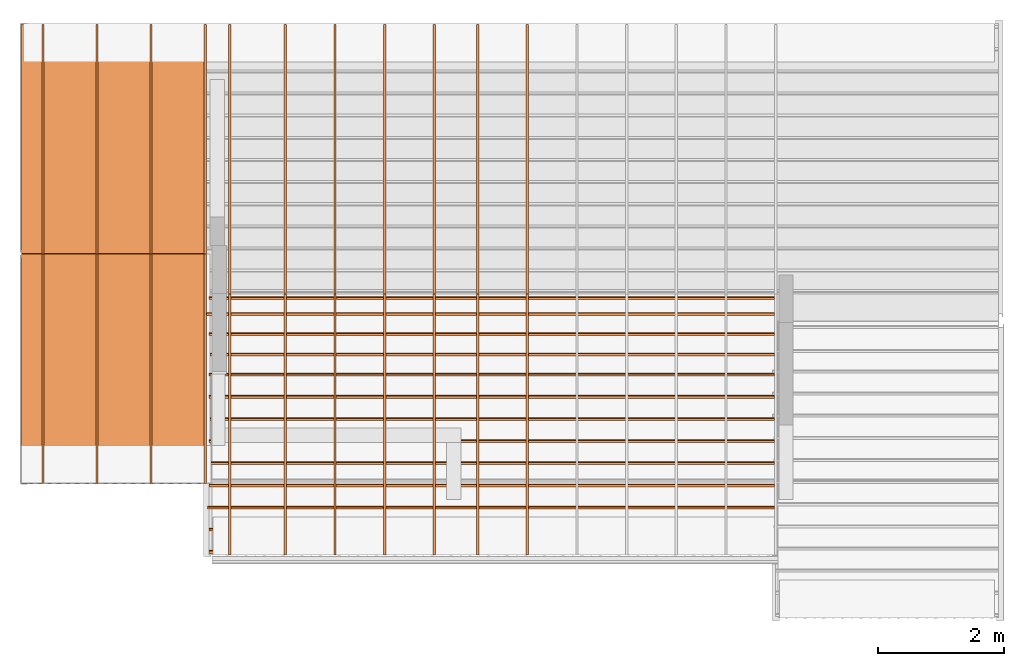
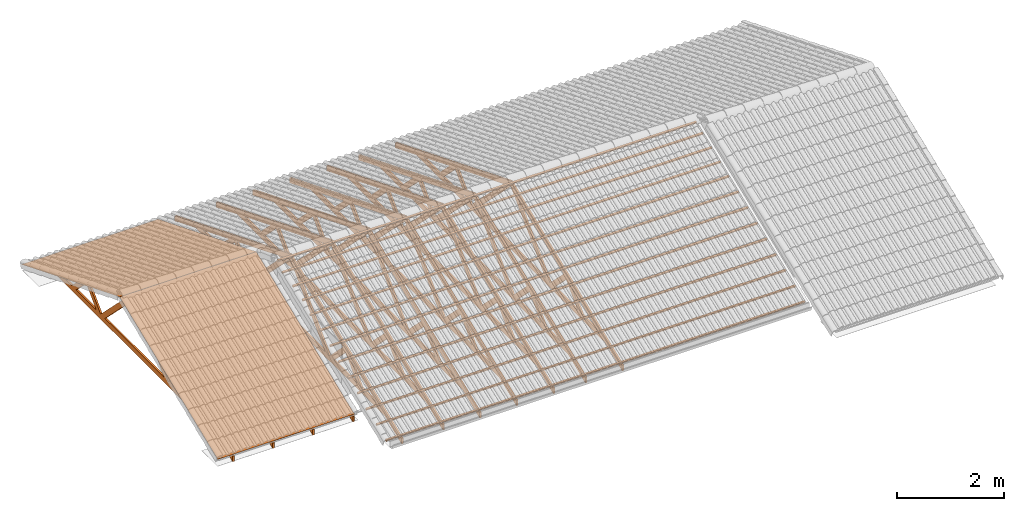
# One storey, part 4 of 5: 14 proxies.
"""IFC2X3 building model written with IfcOpenShell, lengths in millimetres."""

from ifc_helpers import new_model, entity, si_unit, converted_unit, derived_unit, direction, frame, frame_2d, origin, place, context, subcontext, project, spatial, polyline, rectangle, outline, extrude, source, transform, mapped, material, type_object, type_shapes, element, save


model = new_model("IFC2X3")

# Units and contexts
model_context = context("Model", 3, precision=0.01, world=origin(), true_north=direction((6.12303176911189e-17, 1.0)))
body_context = subcontext(model_context, "Body", "Model", "MODEL_VIEW")
ifc_project = project(units=[si_unit("LENGTHUNIT", "METRE", prefix="MILLI"), si_unit("AREAUNIT", "SQUARE_METRE"), si_unit("VOLUMEUNIT", "CUBIC_METRE"), converted_unit("PLANEANGLEUNIT", "DEGREE", entity("IfcRatioMeasure", 0.0174532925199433), si_unit("PLANEANGLEUNIT", "RADIAN"), dimensions=[0, 0, 0, 0, 0, 0, 0]), si_unit("MASSUNIT", "GRAM", prefix="KILO"), derived_unit("MASSDENSITYUNIT", [(si_unit("MASSUNIT", "GRAM", prefix="KILO"), 1), (si_unit("LENGTHUNIT", "METRE"), -3)]), si_unit("TIMEUNIT", "SECOND"), si_unit("FREQUENCYUNIT", "HERTZ"), si_unit("THERMODYNAMICTEMPERATUREUNIT", "DEGREE_CELSIUS"), derived_unit("THERMALTRANSMITTANCEUNIT", [(si_unit("MASSUNIT", "GRAM", prefix="KILO"), 1), (si_unit("THERMODYNAMICTEMPERATUREUNIT", "KELVIN"), -1), (si_unit("TIMEUNIT", "SECOND"), -3)]), derived_unit("VOLUMETRICFLOWRATEUNIT", [(si_unit("LENGTHUNIT", "METRE"), 3), (si_unit("TIMEUNIT", "SECOND"), -1)]), si_unit("ELECTRICCURRENTUNIT", "AMPERE"), si_unit("ELECTRICVOLTAGEUNIT", "VOLT"), si_unit("POWERUNIT", "WATT"), si_unit("FORCEUNIT", "NEWTON", prefix="KILO"), si_unit("ILLUMINANCEUNIT", "LUX"), si_unit("LUMINOUSFLUXUNIT", "LUMEN"), si_unit("LUMINOUSINTENSITYUNIT", "CANDELA"), derived_unit("USERDEFINED", [(si_unit("MASSUNIT", "GRAM", prefix="KILO"), -1), (si_unit("LENGTHUNIT", "METRE"), -2), (si_unit("TIMEUNIT", "SECOND"), 3), (si_unit("LUMINOUSFLUXUNIT", "LUMEN"), 1)]), derived_unit("LINEARVELOCITYUNIT", [(si_unit("LENGTHUNIT", "METRE"), 1), (si_unit("TIMEUNIT", "SECOND"), -1)]), si_unit("PRESSUREUNIT", "PASCAL"), derived_unit("USERDEFINED", [(si_unit("LENGTHUNIT", "METRE"), -2), (si_unit("MASSUNIT", "GRAM", prefix="KILO"), 1), (si_unit("TIMEUNIT", "SECOND"), -2)])], contexts=[model_context])

# Site, building, storey
site_placement = place(None, origin())
site = spatial("IfcSite", under=ifc_project, at=site_placement, Name="Surface", CompositionType="ELEMENT")
building_placement = place(site_placement, origin())
building = spatial("IfcBuilding", under=site, at=building_placement, CompositionType="ELEMENT")
storey_placement = place(building_placement, frame((0.0, 0.0, 2765.0)))
storey = spatial("IfcBuildingStorey", under=building, at=storey_placement, Name="U.S.W.P", CompositionType="ELEMENT", Elevation=2765.0)

# Proxies
ifc_material_1 = material(Name="TIMBER 2")
building_element_proxy_type_1 = type_object("IfcBuildingElementProxyType", Name="STRUCTURE 2", PredefinedType="NOTDEFINED", material=ifc_material_1)
shared_shape_1 = source(origin(), body_context, "Body", "SweptSolid", [
    extrude(outline(polyline([(-485.844140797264, -1202.50750355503), (3453.50400683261, -1202.50750355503), (3499.55744034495, -1088.50750355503), (2806.06515703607, -1088.50750355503), (1143.65269277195, -416.849269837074), (1143.48319688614, -416.449962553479), (1143.08388960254, -416.619458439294), (-1111.67319616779, 494.361537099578), (-1111.84269205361, 494.760844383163), (-1112.24199933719, 494.591348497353), (-2774.65446360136, 1166.24958221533), (-3273.51584073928, 1647.99173150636), (-3319.57405077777, 1533.9936613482), (-485.844140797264, -1202.50750355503)]), holes=[polyline([(-649.660257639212, -885.833469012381), (-1746.66032303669, 173.52718010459), (-1198.16029033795, 406.351630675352), (-649.660257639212, -885.833469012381)]), polyline([(-2555.74551036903, 954.851663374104), (-2192.41655392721, 808.05723636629), (-2045.6221269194, 462.231238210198), (-2555.74551036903, 954.851663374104)]), polyline([(-148.02441921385, -1088.50750355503), (1144.16068047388, -540.00747085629), (1376.98513104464, -1088.50750355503), (-148.02441921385, -1088.50750355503)]), polyline([(-439.785151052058, -1088.50750355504), (-1048.67938839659, 345.95742602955), (994.679778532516, -479.613266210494), (-439.785151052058, -1088.50750355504)]), polyline([(1293.64158241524, -600.401675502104), (1988.93604212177, -881.318871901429), (1500.83021406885, -1088.50750355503), (1293.64158241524, -600.401675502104)]), polyline([(1792.59094590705, -1088.50750355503), (2138.41694406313, -941.71307654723), (2501.74590050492, -1088.50750355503), (1792.59094590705, -1088.50750355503)]), polyline([(-1835.74702033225, 259.557203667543), (-2042.93565198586, 747.663031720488), (-1347.64119227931, 466.745835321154), (-1835.74702033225, 259.557203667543)])]), frame((-19.0, 0.000396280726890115, 343.054039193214), z_axis=(1.0, 0.0, 0.0), x_axis=(0.0, -0.927183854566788, -0.374606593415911)), (0.0, 0.0, 1.0), 38.0),
])
type_shapes(building_element_proxy_type_1, [shared_shape_1])
for number, where, name in (
    (1, (-11747.8751700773, 7772.59087597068, -212.364427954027), "STRUCTURE 2:STRUCTURE 2"),
    (2, (-10887.8751700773, 7772.59087597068, -212.364427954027), "STRUCTURE 2:STRUCTURE 2"),
    (3, (-10027.8751700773, 7772.59087597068, -212.364427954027), "STRUCTURE 2:STRUCTURE 2"),
    (4, (-9167.8751700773, 7772.59087597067, -212.364427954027), "STRUCTURE 2:STRUCTURE 2"),
):
    element("IfcBuildingElementProxy", number, at=place(storey_placement, frame(where)), inside=storey, type_object=building_element_proxy_type_1, material=ifc_material_1, Name=name, ObjectType="STRUCTURE 2", context=body_context, shape_type="MappedRepresentation", body=[
        mapped(shared_shape_1, transform((0.0, 0.0, 0.0), scale=1.0)),
    ])
building_element_proxy_type_2 = type_object("IfcBuildingElementProxyType", Name="STRUCTURE", PredefinedType="NOTDEFINED", material=ifc_material_1)
shared_shape_2 = source(origin(), body_context, "Body", "SweptSolid", [
    extrude(outline(polyline([(-4018.80184531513, -1245.65570033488), (-3972.74395265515, -1359.65389872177), (506.410833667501, -1359.66636899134), (3836.52762871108, 1856.17212158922), (3790.46973605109, 1970.17031997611), (3183.76594544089, 1384.28922681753), (-3325.62834590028, -1245.65570033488), (-4018.80184531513, -1245.65570033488)]), holes=[polyline([(-1998.73682413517, -1245.65939449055), (-3021.30908937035, -1245.65654758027), (-2497.4030946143, -1033.98648251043), (-1998.73682413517, -1245.65939449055)]), polyline([(-1386.99133862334, -585.354607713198), (168.591429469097, -1245.66542847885), (-1667.27665290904, -1245.66031729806), (-1386.99133862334, -585.354607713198)]), polyline([(460.352161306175, -1245.66624076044), (-1237.51026854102, -524.960819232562), (1181.05758283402, 452.196189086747), (460.352161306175, -1245.66624076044)]), polyline([(1330.53865291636, 512.589977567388), (1990.84436250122, 232.304663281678), (670.227832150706, -1042.99279052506), (1330.53865291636, 512.589977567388)]), polyline([(2964.85640366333, 1172.89191743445), (2229.2774969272, 462.555581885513), (2440.9504089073, 961.22185236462), (2964.85640366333, 1172.89191743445)]), polyline([(1480.01972299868, 572.983766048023), (2291.46933882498, 900.828063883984), (2049.66667982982, 331.181107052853), (1480.01972299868, 572.983766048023)]), polyline([(-2347.92202453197, -973.592694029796), (-1536.47240870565, -645.748396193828), (-1778.27506770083, -1215.39535302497), (-2347.92202453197, -973.592694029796)])]), frame((-19.0, 39.7999999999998, 449.634346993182), z_axis=(-1.0, 0.0, 0.0), x_axis=(0.0, 0.92718489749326, 0.374604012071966)), (0.0, 0.0, -1.0), 38.0),
])
type_shapes(building_element_proxy_type_2, [shared_shape_2])
for number, where, name in (
    (5, (-7889.42092415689, 7132.5908759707, -213.787643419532), "STRUCTURE:STRUCTURE"),
    (6, (-7099.42092415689, 7132.59087597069, -213.787643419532), "STRUCTURE:STRUCTURE"),
    (7, (-6309.42092415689, 7132.59087597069, -213.787643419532), "STRUCTURE:STRUCTURE"),
    (8, (-5519.42092415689, 7132.59087597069, -213.787643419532), "STRUCTURE:STRUCTURE"),
    (9, (-4827.87517007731, 7132.59087597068, -213.787643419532), "STRUCTURE:STRUCTURE"),
    (10, (-4037.87517007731, 7132.59087597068, -213.787643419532), "STRUCTURE:STRUCTURE"),
    (11, (-8777.87517007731, 7132.59087597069, -213.787643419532), "STRUCTURE:STRUCTURE"),
):
    element("IfcBuildingElementProxy", number, at=place(storey_placement, frame(where)), inside=storey, type_object=building_element_proxy_type_2, material=ifc_material_1, Name=name, ObjectType="STRUCTURE", context=body_context, shape_type="MappedRepresentation", body=[
        mapped(shared_shape_2, transform((0.0, 0.0, 0.0), scale=1.0)),
    ])
ifc_material_2 = material(Name="TIMBER")
building_element_proxy_type_3 = type_object("IfcBuildingElementProxyType", Name="Generic Models 1", PredefinedType="NOTDEFINED", material=ifc_material_2)
shared_shape_3 = source(origin(), body_context, "Body", "SweptSolid", [
    extrude(rectangle(XDim=37.9999999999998, YDim=38.0000000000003, at=frame_2d((-1.00364161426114e-12, 4.05009359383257e-13), x_axis=(0.0, 1.0))), frame((-6778.64843247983, 18942.0189115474, 5138.45449771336), z_axis=(1.0, 0.0, 0.0), x_axis=(0.0, 0.927183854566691, 0.374606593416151)), (0.0, 0.0, 1.0), 9000.0),
    extrude(rectangle(XDim=37.9999999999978, YDim=37.9999999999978, at=frame_2d((-1.00364161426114e-12, 4.06785716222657e-13), x_axis=(0.0, 1.0))), frame((-6820.64843247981, 18690.2977164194, 5036.75253328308), z_axis=(1.0, 0.0, 0.0), x_axis=(0.0, 0.927183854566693, 0.374606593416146)), (0.0, 0.0, 1.0), 9041.99999999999),
    extrude(rectangle(XDim=37.9999999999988, YDim=37.9999999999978, at=frame_2d((-8.01136934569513e-13, 9.07718344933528e-13), x_axis=(0.0, 1.0))), frame((-6778.64843247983, 18368.1105483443, 4906.58046775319), z_axis=(1.0, 0.0, 0.0), x_axis=(0.0, 0.927183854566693, 0.374606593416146)), (0.0, 0.0, 1.0), 9000.0),
    extrude(rectangle(XDim=37.9999999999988, YDim=37.9999999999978, at=frame_2d((1.00541797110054e-12, -4.05009359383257e-13), x_axis=(0.0, 1.0))), frame((-6758.64843247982, 18045.9233802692, 4776.4084022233), z_axis=(1.0, 0.0, 0.0), x_axis=(0.0, 0.927183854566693, 0.374606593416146)), (0.0, 0.0, 1.0), 8979.99999999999),
    extrude(rectangle(XDim=38.0000000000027, YDim=37.9999999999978, at=frame_2d((0.0, 0.0), x_axis=(0.0, 1.0))), frame((-6778.64843247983, 17723.7362121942, 4646.23633669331), z_axis=(1.0, 0.0, 0.0), x_axis=(0.0, 0.927183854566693, 0.374606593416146)), (0.0, 0.0, 1.0), 9000.0),
    extrude(rectangle(XDim=37.9999999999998, YDim=38.0000000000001, at=frame_2d((-1.00364161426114e-12, 4.05009359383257e-13), x_axis=(0.0, 1.0))), frame((-6778.64843247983, 17371.4063474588, 4503.88583119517), z_axis=(1.0, 0.0, 0.0), x_axis=(0.0, 0.927183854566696, 0.374606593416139)), (0.0, 0.0, 1.0), 9000.0),
    extrude(rectangle(XDim=38.0000000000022, YDim=37.9999999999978, at=frame_2d((1.01252339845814e-13, 2.52242671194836e-13), x_axis=(0.0, 1.0))), frame((-6758.64843247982, 17019.0764827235, 4361.53532569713), z_axis=(1.0, 0.0, 0.0), x_axis=(0.0, 0.927183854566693, 0.374606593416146)), (0.0, 0.0, 1.0), 8979.99999999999),
    extrude(rectangle(XDim=38.0000000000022, YDim=37.9999999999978, at=frame_2d((1.01252339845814e-13, 2.52242671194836e-13), x_axis=(0.0, 1.0))), frame((-6778.64843247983, 16666.7466179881, 4219.18482019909), z_axis=(1.0, 0.0, 0.0), x_axis=(0.0, 0.927183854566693, 0.374606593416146)), (0.0, 0.0, 1.0), 9000.0),
    extrude(rectangle(XDim=38.0000000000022, YDim=37.9999999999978, at=frame_2d((1.01252339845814e-13, 2.52242671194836e-13), x_axis=(0.0, 1.0))), frame((-6788.64843247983, 16314.4167532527, 4076.83431470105), z_axis=(1.0, 0.0, 0.0), x_axis=(0.0, 0.927183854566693, 0.374606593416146)), (0.0, 0.0, 1.0), 9009.99999999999),
    extrude(rectangle(XDim=38.0000000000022, YDim=37.9999999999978, at=frame_2d((1.01252339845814e-13, 2.52242671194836e-13), x_axis=(0.0, 1.0))), frame((-6778.64843247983, 15962.0868885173, 3934.483809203), z_axis=(1.0, 0.0, 0.0), x_axis=(0.0, 0.927183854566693, 0.374606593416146)), (0.0, 0.0, 1.0), 9000.0),
    extrude(rectangle(XDim=37.9999999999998, YDim=38.0000000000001, at=frame_2d((-1.00364161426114e-12, 4.05009359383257e-13), x_axis=(0.0, 1.0))), frame((-6798.64843247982, 15609.7570237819, 3792.13330370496), z_axis=(1.0, 0.0, 0.0), x_axis=(0.0, 0.927183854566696, 0.374606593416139)), (0.0, 0.0, 1.0), 9019.99999999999),
    extrude(rectangle(XDim=38.0000000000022, YDim=37.9999999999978, at=frame_2d((1.01252339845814e-13, 2.52242671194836e-13), x_axis=(0.0, 1.0))), frame((-6778.64843247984, 15257.4271590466, 3649.78279820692), z_axis=(1.0, 0.0, 0.0), x_axis=(0.0, 0.927183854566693, 0.374606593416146)), (0.0, 0.0, 1.0), 9000.0),
    extrude(rectangle(XDim=38.0000000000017, YDim=37.999999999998, at=frame_2d((-2.02504679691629e-13, -5.04485342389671e-13), x_axis=(0.0, 1.0))), frame((-6778.64843247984, 14905.0972943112, 3507.43229270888), z_axis=(1.0, 0.0, 0.0), x_axis=(0.0, 0.927183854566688, 0.374606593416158)), (0.0, 0.0, 1.0), 9000.0),
])
type_shapes(building_element_proxy_type_3, [shared_shape_3])
proxy_1_placement = place(storey_placement, frame((-2328.22673759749, -11874.5074503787, -3458.04377136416)))
element("IfcBuildingElementProxy", 12, at=proxy_1_placement, inside=storey, type_object=building_element_proxy_type_3, material=ifc_material_2, Name="Generic Models 3:Generic Models 1", ObjectType="Generic Models 1", context=body_context, shape_type="MappedRepresentation", body=[
    mapped(shared_shape_3, transform((0.0, 0.0, 0.0), scale=1.0)),
])
building_element_proxy_type_4 = type_object("IfcBuildingElementProxyType", Name="Generic Models 4", PredefinedType="NOTDEFINED")
shared_shape_4 = source(origin(), body_context, "Body", "SweptSolid", [
    extrude(rectangle(XDim=1.99999999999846, YDim=3939.34814762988, at=frame_2d((4.54747350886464e-13, 1.01518793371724e-12), x_axis=(0.0, 1.0))), frame((-9758.64843247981, 17821.2229329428, 4191.2134035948), z_axis=(1.0, 0.0, 0.0), x_axis=(0.0, -0.927183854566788, -0.374606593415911)), (0.0, 0.0, 1.0), 2938.0),
])
type_shapes(building_element_proxy_type_4, [shared_shape_4])
proxy_2_placement = place(storey_placement, frame((-2328.22673759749, -11874.5074503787, -3458.04377136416)))
element("IfcBuildingElementProxy", 13, at=proxy_2_placement, inside=storey, type_object=building_element_proxy_type_4, Name="Generic Models 4:Generic Models 4", ObjectType="Generic Models 4", context=body_context, shape_type="MappedRepresentation", body=[
    mapped(shared_shape_4, transform((0.0, 0.0, 0.0), scale=1.0)),
])
building_element_proxy_type_5 = type_object("IfcBuildingElementProxyType", Name="Generic Models 4", PredefinedType="NOTDEFINED")
shared_shape_5 = source(origin(), body_context, "Body", "SweptSolid", [
    extrude(rectangle(XDim=1.99999999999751, YDim=3939.34814762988, at=frame_2d((0.0, 0.0), x_axis=(0.0, 1.0))), frame((-9758.64843247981, 21474.4721461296, 4191.2134035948), z_axis=(1.0, 0.0, 0.0), x_axis=(0.0, 0.927183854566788, -0.374606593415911)), (0.0, 0.0, 1.0), 2938.0),
])
type_shapes(building_element_proxy_type_5, [shared_shape_5])
proxy_3_placement = place(storey_placement, frame((-2328.22673759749, -11874.5074503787, -3458.04377136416)))
element("IfcBuildingElementProxy", 14, at=proxy_3_placement, inside=storey, type_object=building_element_proxy_type_5, Name="Generic Models 7:Generic Models 4", ObjectType="Generic Models 4", context=body_context, shape_type="MappedRepresentation", body=[
    mapped(shared_shape_5, transform((0.0, 0.0, 0.0), scale=1.0)),
])

save(model, "model.ifc")
